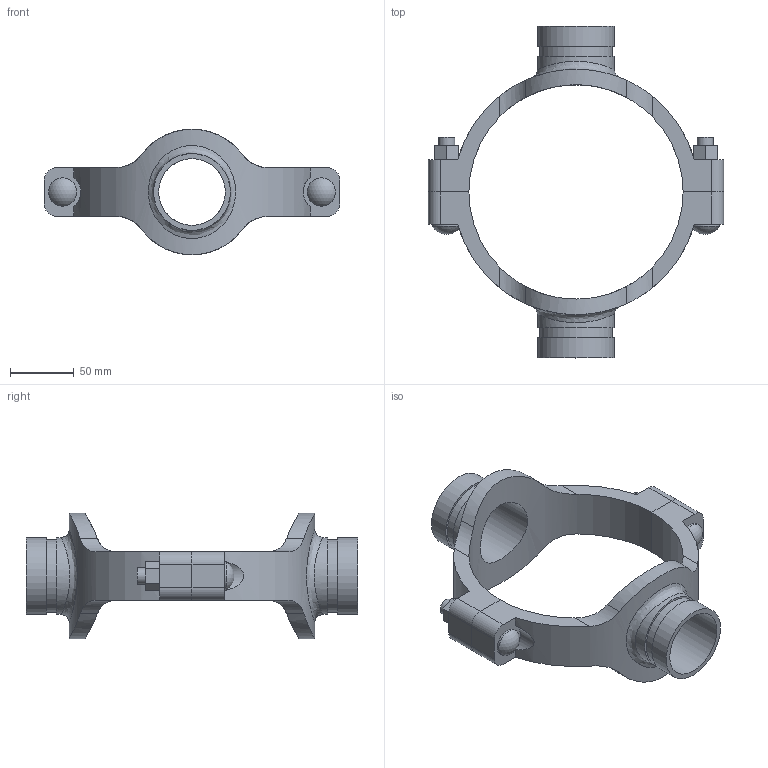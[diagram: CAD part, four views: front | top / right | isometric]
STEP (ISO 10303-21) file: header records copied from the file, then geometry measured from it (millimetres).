
FILE_DESCRIPTION(/* description */ ('VIC MECH-T BRANCH OUTLET CROSS STYLE 920N (GRVD)','CAx-IF Rec.Pracs.---Representation and Presentation of Product Manufacturing Information (PMI)---4.0---2014-10-13'),/* implementation_level */ '2;1');
FILE_NAME(/* name */ 'C:\Users\Vjadhav\AppData\Roaming\Autodesk\ApplicationPlugins\Back Up\Victaulic_IPS_Mechanical-Cross Outlet_Style 920N (OGS)\Victaulic_IPS_Mechanical-Cross Outlet_06.0x02.0x02.0 (150x50x50).stp',/* time_stamp */ '2020-08-06T19:44:47+05:00',/* author */ ('Vjadhav'),/* organization */ ('Victaulic'),/* preprocessor_version */ 'ST-DEVELOPER v17.2',/* originating_system */ 'Autodesk Inventor 2019',/* authorisation */ '');
FILE_SCHEMA (('AP242_MANAGED_MODEL_BASED_3D_ENGINEERING_MIM_LF { 1 0 10303 442 1 1 4 }'));
Length unit declared in the file: inch
Products named in the file (3): 920NG-06.0x02.0x02.0; 920NG-06.0x02.0; 920NG-06.0x02.0_1
Assembly tree (2 placements, depth 2):
  920NG-06.0x02.0x02.0
    920NG-06.0x02.0
    920NG-06.0x02.0_1
Bounding box: 231.9 x 260.6 x 98.55 mm (x, y, z)
Volume: 435379.9 mm3; surface area: 120216.4 mm2
Topology: 2 solids, 2 shells, 108 faces, 274 edges, 186 vertices
Faces by surface type: plane 54, cylinder 50, sphere 2, bspline 2
Full cylindrical faces by diameter (mm): 12.7 x4, 22.225 x2, 52.387 x2, 57.15 x2, 60.325 x4
Entity records: 4374 total; most frequent: CARTESIAN_POINT 1493, DIRECTION 552, ORIENTED_EDGE 548, EDGE_CURVE 274, AXIS2_PLACEMENT_3D 201, VERTEX_POINT 186, LINE 150, VECTOR 150
